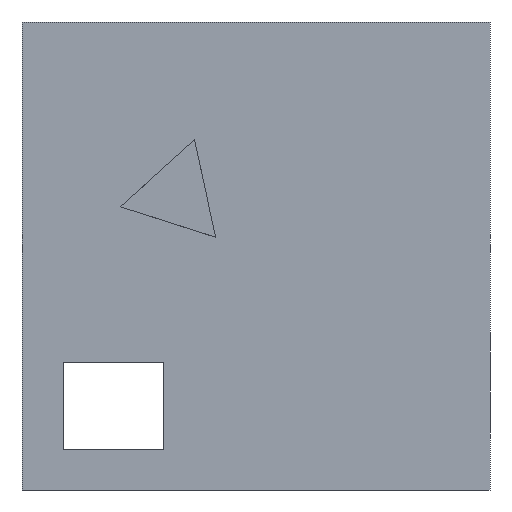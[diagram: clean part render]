
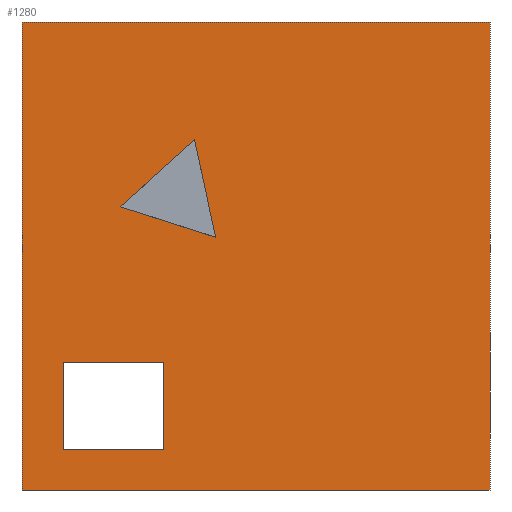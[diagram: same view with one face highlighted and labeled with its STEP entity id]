
A CAD part, front view. The second image highlights one B-rep face of the part: STEP entity #1280.
In plain terms, the highlighted planar face has unit normal (0, -1, 0).
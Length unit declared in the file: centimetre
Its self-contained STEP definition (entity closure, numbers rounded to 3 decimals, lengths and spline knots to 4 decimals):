
#6 = EDGE_CURVE ( 'NONE', #1191, #557, #644, .T. ) ;
#15 = LINE ( 'NONE', #424, #1032 ) ;
#36 = EDGE_CURVE ( 'NONE', #1475, #635, #512, .T. ) ;
#73 = CARTESIAN_POINT ( 'NONE',  ( 87.7548, 0., 85.7344 ) ) ;
#88 = CARTESIAN_POINT ( 'NONE',  ( 302.1789, 0., 85.7344 ) ) ;
#93 = CARTESIAN_POINT ( 'NONE',  ( 0., 0., 0. ) ) ;
#125 = EDGE_LOOP ( 'NONE', ( #1170, #694, #494, #1031 ) ) ;
#164 = EDGE_CURVE ( 'NONE', #214, #606, #1180, .T. ) ;
#197 = CARTESIAN_POINT ( 'NONE',  ( 0., 0., 1000. ) ) ;
#201 = CARTESIAN_POINT ( 'NONE',  ( 1000., 0., 1000. ) ) ;
#214 = VERTEX_POINT ( 'NONE', #654 ) ;
#228 = LINE ( 'NONE', #485, #610 ) ;
#244 = DIRECTION ( 'NONE',  ( 0., 0., 1. ) ) ;
#324 = CARTESIAN_POINT ( 'NONE',  ( 210.3565, 0., 605.1168 ) ) ;
#335 = EDGE_LOOP ( 'NONE', ( #781, #786, #1408, #1491 ) ) ;
#394 = DIRECTION ( 'NONE',  ( 0., 0., -1. ) ) ;
#403 = CARTESIAN_POINT ( 'NONE',  ( 0., 0., 1000. ) ) ;
#424 = CARTESIAN_POINT ( 'NONE',  ( 0., 0., 1000. ) ) ;
#432 = VECTOR ( 'NONE', #1516, 100. ) ;
#439 = FACE_BOUND ( 'NONE', #1540, .T. ) ;
#443 = CARTESIAN_POINT ( 'NONE',  ( 413.8743, 0., 540.029 ) ) ;
#455 = CARTESIAN_POINT ( 'NONE',  ( 87.7548, 0., 85.7344 ) ) ;
#485 = CARTESIAN_POINT ( 'NONE',  ( 302.1789, 0., 85.7344 ) ) ;
#486 = DIRECTION ( 'NONE',  ( 1., 0., 0. ) ) ;
#494 = ORIENTED_EDGE ( 'NONE', *, *, #571, .F. ) ;
#508 = VECTOR ( 'NONE', #394, 100. ) ;
#512 = LINE ( 'NONE', #1142, #718 ) ;
#543 = VECTOR ( 'NONE', #1600, 100. ) ;
#552 = DIRECTION ( 'NONE',  ( 0., 0., -1. ) ) ;
#553 = AXIS2_PLACEMENT_3D ( 'NONE', #725, #576, #1470 ) ;
#557 = VERTEX_POINT ( 'NONE', #852 ) ;
#571 = EDGE_CURVE ( 'NONE', #1382, #1191, #1254, .T. ) ;
#576 = DIRECTION ( 'NONE',  ( 0., 1., 0. ) ) ;
#602 = FACE_BOUND ( 'NONE', #335, .T. ) ;
#606 = VERTEX_POINT ( 'NONE', #455 ) ;
#610 = VECTOR ( 'NONE', #244, 100. ) ;
#617 = DIRECTION ( 'NONE',  ( -1., 0., 0. ) ) ;
#635 = VERTEX_POINT ( 'NONE', #324 ) ;
#644 = LINE ( 'NONE', #1550, #508 ) ;
#654 = CARTESIAN_POINT ( 'NONE',  ( 87.7548, 0., 273.0645 ) ) ;
#668 = VECTOR ( 'NONE', #552, 100. ) ;
#689 = LINE ( 'NONE', #1203, #543 ) ;
#694 = ORIENTED_EDGE ( 'NONE', *, *, #6, .F. ) ;
#716 = DIRECTION ( 'NONE',  ( 1., 0., 0. ) ) ;
#717 = VERTEX_POINT ( 'NONE', #443 ) ;
#718 = VECTOR ( 'NONE', #1276, 100. ) ;
#725 = CARTESIAN_POINT ( 'NONE',  ( 0., 0., 1000. ) ) ;
#752 = LINE ( 'NONE', #891, #432 ) ;
#781 = ORIENTED_EDGE ( 'NONE', *, *, #1193, .F. ) ;
#786 = ORIENTED_EDGE ( 'NONE', *, *, #164, .F. ) ;
#844 = ORIENTED_EDGE ( 'NONE', *, *, #913, .F. ) ;
#850 = VECTOR ( 'NONE', #617, 100. ) ;
#852 = CARTESIAN_POINT ( 'NONE',  ( 1000., 0., 0. ) ) ;
#866 = VERTEX_POINT ( 'NONE', #1397 ) ;
#869 = VECTOR ( 'NONE', #976, 100. ) ;
#891 = CARTESIAN_POINT ( 'NONE',  ( 210.3565, 0., 605.1168 ) ) ;
#898 = EDGE_CURVE ( 'NONE', #1306, #557, #1021, .T. ) ;
#913 = EDGE_CURVE ( 'NONE', #635, #717, #752, .T. ) ;
#920 = CARTESIAN_POINT ( 'NONE',  ( 87.7548, 0., 273.0645 ) ) ;
#932 = CARTESIAN_POINT ( 'NONE',  ( 87.7548, 0., 85.7344 ) ) ;
#966 = EDGE_CURVE ( 'NONE', #1382, #1306, #15, .T. ) ;
#976 = DIRECTION ( 'NONE',  ( 1., 0., 0. ) ) ;
#978 = FACE_OUTER_BOUND ( 'NONE', #125, .T. ) ;
#1021 = LINE ( 'NONE', #93, #1542 ) ;
#1031 = ORIENTED_EDGE ( 'NONE', *, *, #966, .T. ) ;
#1032 = VECTOR ( 'NONE', #1164, 100. ) ;
#1066 = VECTOR ( 'NONE', #716, 100. ) ;
#1078 = ORIENTED_EDGE ( 'NONE', *, *, #36, .F. ) ;
#1098 = EDGE_CURVE ( 'NONE', #717, #1475, #689, .T. ) ;
#1142 = CARTESIAN_POINT ( 'NONE',  ( 368.4831, 0., 748.8245 ) ) ;
#1164 = DIRECTION ( 'NONE',  ( 0., 0., -1. ) ) ;
#1170 = ORIENTED_EDGE ( 'NONE', *, *, #898, .T. ) ;
#1180 = LINE ( 'NONE', #932, #668 ) ;
#1191 = VERTEX_POINT ( 'NONE', #201 ) ;
#1193 = EDGE_CURVE ( 'NONE', #606, #1444, #1629, .T. ) ;
#1203 = CARTESIAN_POINT ( 'NONE',  ( 413.8743, 0., 540.029 ) ) ;
#1229 = PLANE ( 'NONE',  #553 ) ;
#1254 = LINE ( 'NONE', #197, #869 ) ;
#1276 = DIRECTION ( 'NONE',  ( -0.74, 0., -0.673 ) ) ;
#1280 = ADVANCED_FACE ( 'NONE', ( #439, #602, #978 ), #1229, .F. ) ;
#1306 = VERTEX_POINT ( 'NONE', #1378 ) ;
#1332 = EDGE_CURVE ( 'NONE', #1444, #866, #228, .T. ) ;
#1378 = CARTESIAN_POINT ( 'NONE',  ( 0., 0., 0. ) ) ;
#1382 = VERTEX_POINT ( 'NONE', #403 ) ;
#1386 = EDGE_CURVE ( 'NONE', #866, #214, #1528, .T. ) ;
#1397 = CARTESIAN_POINT ( 'NONE',  ( 302.1789, 0., 273.0645 ) ) ;
#1408 = ORIENTED_EDGE ( 'NONE', *, *, #1386, .F. ) ;
#1444 = VERTEX_POINT ( 'NONE', #88 ) ;
#1470 = DIRECTION ( 'NONE',  ( 0., 0., 1. ) ) ;
#1475 = VERTEX_POINT ( 'NONE', #1578 ) ;
#1491 = ORIENTED_EDGE ( 'NONE', *, *, #1332, .F. ) ;
#1516 = DIRECTION ( 'NONE',  ( 0.952, 0., -0.305 ) ) ;
#1528 = LINE ( 'NONE', #920, #850 ) ;
#1540 = EDGE_LOOP ( 'NONE', ( #1078, #1596, #844 ) ) ;
#1542 = VECTOR ( 'NONE', #486, 100. ) ;
#1550 = CARTESIAN_POINT ( 'NONE',  ( 1000., 0., 1000. ) ) ;
#1578 = CARTESIAN_POINT ( 'NONE',  ( 368.4831, 0., 748.8245 ) ) ;
#1596 = ORIENTED_EDGE ( 'NONE', *, *, #1098, .F. ) ;
#1600 = DIRECTION ( 'NONE',  ( -0.212, 0., 0.977 ) ) ;
#1629 = LINE ( 'NONE', #73, #1066 ) ;
